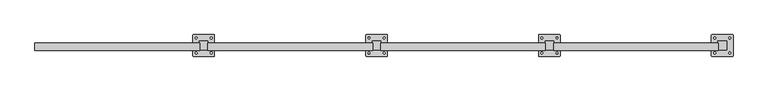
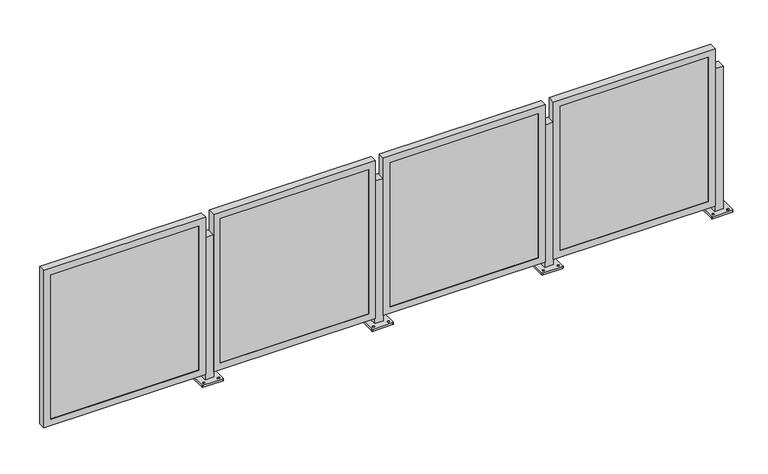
"""IFC4 building model written with IfcOpenShell, lengths in millimetres: railing geometry, Railing - Amico Architectural - Perforated Railing - Pisa."""

from ifc_helpers import new_model, si_unit, frame, origin, place, context, project, spatial, polyline, circle_curve, outline, extrude, faceted_brep, source, transform, mapped, element, save
from ifc_brep_helpers import plane_surface, cylinder_surface, revolved_surface, advanced_brep


def railing_8000f94c(model_context):
    return source(origin(), model_context, "Body", "SolidModel", [
        advanced_brep(
        [(-22940.7094199, -12390.7148907, 914.4), (-22940.7094199, -12441.5148907, 914.4), (-22889.9094199, -12441.5148907, 914.4), (-22889.9094199, -12390.7148907, 914.4), (-22978.8094201, -12476.4398496, 0.0), (-22978.8094201, -12355.7899317, 0.0), (-22975.6343919, -12352.6149035, 0.0), (-22854.9844479, -12352.6149035, 0.0), (-22851.8094198, -12355.7899317, 0.0), (-22851.8094198, -12476.4398496, 0.0), (-22854.9844479, -12479.6148778, 0.0), (-22975.6343919, -12479.6148778, 0.0), (-22959.7594075, -12466.1211453, 0.0), (-22959.7594075, -12455.0086329, 0.0), (-22959.7594184, -12377.2211409, 0.0), (-22959.7594184, -12366.1086593, 0.0), (-22870.8594065, -12466.1211438, 0.0), (-22870.8594065, -12455.0086331, 0.0), (-22870.8594174, -12377.2211394, 0.0), (-22870.8594174, -12366.1086596, 0.0), (-22940.7094199, -12390.7148907, 12.7), (-22940.7094199, -12441.5148907, 12.7), (-22889.9094199, -12441.5148907, 12.7), (-22889.9094199, -12390.7148907, 12.7), (-22978.8094201, -12476.4398496, 12.7), (-22975.6343919, -12479.6148778, 12.7), (-22854.9844479, -12479.6148778, 12.7), (-22851.8094198, -12476.4398496, 12.7), (-22851.8094198, -12355.7899317, 12.7), (-22854.9844479, -12352.6149035, 12.7), (-22975.6343919, -12352.6149035, 12.7), (-22978.8094201, -12355.7899317, 12.7), (-22959.7594075, -12466.1211453, 12.7), (-22959.7594075, -12455.0086329, 12.7), (-22959.7594184, -12377.2211409, 12.7), (-22959.7594184, -12366.1086593, 12.7), (-22870.8594065, -12466.1211438, 12.7), (-22870.8594065, -12455.0086331, 12.7), (-22870.8594174, -12377.2211394, 12.7), (-22870.8594174, -12366.1086596, 12.7)],
        [
            (0, 1),
            (1, 2),
            (2, 3),
            (3, 0),
            (4, 5),
            (5, 6, circle_curve(frame((-22975.6343919, -12355.7899317, 0.0), z_axis=(0.0, 0.0, -1.0), x_axis=(0.0, 1.0, 0.0)), 3.1750282)),
            (6, 7),
            (7, 8, circle_curve(frame((-22854.9844479, -12355.7899317, 0.0), z_axis=(0.0, 0.0, -1.0), x_axis=(0.0, 1.0, 0.0)), 3.1750282)),
            (8, 9),
            (9, 10, circle_curve(frame((-22854.9844479, -12476.4398496, 0.0), z_axis=(0.0, 0.0, -1.0), x_axis=(0.0, 1.0, 0.0)), 3.1750282)),
            (10, 11),
            (11, 4, circle_curve(frame((-22975.6343919, -12476.4398496, 0.0), z_axis=(0.0, 0.0, -1.0), x_axis=(0.0, 1.0, 0.0)), 3.1750282)),
            (12, 13, circle_curve(frame((-22959.7594075, -12460.5648891, 0.0), z_axis=(0.0, 0.0, 1.0), x_axis=(0.0, 1.0, 0.0)), 5.5562562)),
            (13, 12, circle_curve(frame((-22959.7594075, -12460.5648891, 0.0), z_axis=(0.0, 0.0, 1.0), x_axis=(0.0, 1.0, 0.0)), 5.5562562)),
            (14, 15, circle_curve(frame((-22959.7594184, -12371.6649001, 0.0), z_axis=(0.0, 0.0, 1.0), x_axis=(0.0, 1.0, 0.0)), 5.5562408)),
            (15, 14, circle_curve(frame((-22959.7594184, -12371.6649001, 0.0), z_axis=(0.0, 0.0, 1.0), x_axis=(0.0, 1.0, 0.0)), 5.5562408)),
            (16, 17, circle_curve(frame((-22870.8594065, -12460.5648885, 0.0), z_axis=(0.0, 0.0, 1.0), x_axis=(0.0, 1.0, 0.0)), 5.5562553)),
            (17, 16, circle_curve(frame((-22870.8594065, -12460.5648885, 0.0), z_axis=(0.0, 0.0, 1.0), x_axis=(0.0, 1.0, 0.0)), 5.5562553)),
            (18, 19, circle_curve(frame((-22870.8594174, -12371.6648995, 0.0), z_axis=(0.0, 0.0, 1.0), x_axis=(0.0, 1.0, 0.0)), 5.5562399)),
            (19, 18, circle_curve(frame((-22870.8594174, -12371.6648995, 0.0), z_axis=(0.0, 0.0, 1.0), x_axis=(0.0, 1.0, 0.0)), 5.5562399)),
            (0, 20),
            (20, 21),
            (21, 1),
            (21, 22),
            (22, 2),
            (22, 23),
            (23, 3),
            (23, 20),
            (24, 25, circle_curve(frame((-22975.6343919, -12476.4398496, 12.7), z_axis=(0.0, 0.0, 1.0), x_axis=(0.0, 1.0, 0.0)), 3.1750282)),
            (25, 26),
            (26, 27, circle_curve(frame((-22854.9844479, -12476.4398496, 12.7), z_axis=(0.0, 0.0, 1.0), x_axis=(0.0, 1.0, 0.0)), 3.1750282)),
            (27, 28),
            (28, 29, circle_curve(frame((-22854.9844479, -12355.7899317, 12.7), z_axis=(0.0, 0.0, 1.0), x_axis=(0.0, 1.0, 0.0)), 3.1750282)),
            (29, 30),
            (30, 31, circle_curve(frame((-22975.6343919, -12355.7899317, 12.7), z_axis=(0.0, 0.0, 1.0), x_axis=(0.0, 1.0, 0.0)), 3.1750282)),
            (31, 24),
            (32, 33, circle_curve(frame((-22959.7594075, -12460.5648891, 12.7), z_axis=(0.0, 0.0, -1.0), x_axis=(0.0, 1.0, 0.0)), 5.5562562)),
            (33, 32, circle_curve(frame((-22959.7594075, -12460.5648891, 12.7), z_axis=(0.0, 0.0, -1.0), x_axis=(0.0, 1.0, 0.0)), 5.5562562)),
            (34, 35, circle_curve(frame((-22959.7594184, -12371.6649001, 12.7), z_axis=(0.0, 0.0, -1.0), x_axis=(0.0, 1.0, 0.0)), 5.5562408)),
            (35, 34, circle_curve(frame((-22959.7594184, -12371.6649001, 12.7), z_axis=(0.0, 0.0, -1.0), x_axis=(0.0, 1.0, 0.0)), 5.5562408)),
            (36, 37, circle_curve(frame((-22870.8594065, -12460.5648885, 12.7), z_axis=(0.0, 0.0, -1.0), x_axis=(0.0, 1.0, 0.0)), 5.5562553)),
            (37, 36, circle_curve(frame((-22870.8594065, -12460.5648885, 12.7), z_axis=(0.0, 0.0, -1.0), x_axis=(0.0, 1.0, 0.0)), 5.5562553)),
            (38, 39, circle_curve(frame((-22870.8594174, -12371.6648995, 12.7), z_axis=(0.0, 0.0, -1.0), x_axis=(0.0, 1.0, 0.0)), 5.5562399)),
            (39, 38, circle_curve(frame((-22870.8594174, -12371.6648995, 12.7), z_axis=(0.0, 0.0, -1.0), x_axis=(0.0, 1.0, 0.0)), 5.5562399)),
            (24, 4),
            (11, 25),
            (10, 26),
            (9, 27),
            (8, 28),
            (7, 29),
            (6, 30),
            (5, 31),
            (32, 12),
            (13, 33),
            (34, 14),
            (15, 35),
            (36, 16),
            (17, 37),
            (38, 18),
            (19, 39),
        ],
        [
            plane_surface(frame((-22940.7094199, -12441.5148907, 914.4), z_axis=(0.0, 0.0, 1.0), x_axis=(0.0, -1.0, 0.0))),
            plane_surface(frame((-22940.7094199, -12441.5148907, 0.0), z_axis=(0.0, 0.0, -1.0), x_axis=(0.0, 1.0, 0.0))),
            plane_surface(frame((-22940.7094199, -12390.7148907, 914.4), z_axis=(-1.0, 0.0, 0.0), x_axis=(0.0, 0.0, -1.0))),
            plane_surface(frame((-22940.7094199, -12441.5148907, 914.4), z_axis=(0.0, -1.0, 0.0), x_axis=(0.0, 0.0, -1.0))),
            plane_surface(frame((-22889.9094199, -12441.5148907, 914.4), z_axis=(1.0, 0.0, 0.0), x_axis=(0.0, 0.0, -1.0))),
            plane_surface(frame((-22889.9094199, -12390.7148907, 914.4), z_axis=(0.0, 1.0, 0.0), x_axis=(0.0, 0.0, -1.0))),
            plane_surface(frame((-22975.6343919, -12473.2648215, 12.7), z_axis=(0.0, 0.0, 1.0), x_axis=(-1.0, 0.0, 0.0))),
            cylinder_surface(frame((-22975.6343919, -12476.4398496, 0.0), z_axis=(0.0, 0.0, 1.0), x_axis=(0.0, 1.0, 0.0)), 3.1750282),
            plane_surface(frame((-22975.6343919, -12479.6148778, 12.7), z_axis=(1.1945386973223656e-12, -1.0, 0.0), x_axis=(0.0, 0.0, -1.0))),
            cylinder_surface(frame((-22854.9844479, -12476.4398496, 0.0), z_axis=(0.0, 0.0, 1.0), x_axis=(0.0, 1.0, 0.0)), 3.1750282),
            plane_surface(frame((-22851.8094198, -12476.4398496, 12.7), z_axis=(1.0, 0.0, 0.0), x_axis=(0.0, 0.0, -1.0))),
            cylinder_surface(frame((-22854.9844479, -12355.7899317, 0.0), z_axis=(0.0, 0.0, 1.0), x_axis=(0.0, 1.0, 0.0)), 3.1750282),
            plane_surface(frame((-22854.9844479, -12352.6149035, 12.7), z_axis=(-1.1946088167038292e-12, 1.0, 0.0), x_axis=(0.0, 0.0, -1.0))),
            cylinder_surface(frame((-22975.6343919, -12355.7899317, 0.0), z_axis=(0.0, 0.0, 1.0), x_axis=(0.0, 1.0, 0.0)), 3.1750282),
            plane_surface(frame((-22978.8094201, -12355.7899317, 12.7), z_axis=(-1.0, 0.0, 0.0), x_axis=(0.0, 0.0, -1.0))),
            revolved_surface(polyline([(-22959.7594075, -12455.0086329, 0.0), (-22959.7594075, -12455.0086329, 12.7)]), (-22959.7594075, -12460.5648891, 0.0), (0.0, 0.0, -1.0)),
            revolved_surface(polyline([(-22959.7594184, -12366.1086593, 0.0), (-22959.7594184, -12366.1086593, 12.7)]), (-22959.7594184, -12371.6649001, 0.0), (0.0, 0.0, -1.0)),
            revolved_surface(polyline([(-22870.8594065, -12455.0086332, 0.0), (-22870.8594065, -12455.0086332, 12.7)]), (-22870.8594065, -12460.5648885, 0.0), (0.0, 0.0, -1.0)),
            revolved_surface(polyline([(-22870.8594174, -12366.1086596, 0.0), (-22870.8594174, -12366.1086596, 12.7)]), (-22870.8594174, -12371.6648995, 0.0), (0.0, 0.0, -1.0)),
        ],
        [
            (0, [[1, 2, 3, 4]]),
            (1, [[5, 6, 7, 8, 9, 10, 11, 12], [13, 14], [15, 16], [17, 18], [19, 20]]),
            (2, [[-1, 21, 22, 23]]),
            (3, [[-2, -23, 24, 25]]),
            (4, [[-3, -25, 26, 27]]),
            (5, [[-4, -27, 28, -21]]),
            (6, [[29, 30, 31, 32, 33, 34, 35, 36], [-22, -28, -26, -24], [37, 38], [39, 40], [41, 42], [43, 44]]),
            (7, [[-29, 45, -12, 46]]),
            (8, [[-30, -46, -11, 47]]),
            (9, [[-31, -47, -10, 48]]),
            (10, [[-32, -48, -9, 49]]),
            (11, [[-33, -49, -8, 50]]),
            (12, [[-34, -50, -7, 51]]),
            (13, [[-35, -51, -6, 52]]),
            (14, [[-36, -52, -5, -45]]),
            (15, [[-37, 53, -14, 54]]),
            (15, [[-38, -54, -13, -53]]),
            (16, [[-39, 55, -16, 56]]),
            (16, [[-40, -56, -15, -55]]),
            (17, [[-41, 57, -18, 58]]),
            (17, [[-42, -58, -17, -57]]),
            (18, [[-43, 59, -20, 60]]),
            (18, [[-44, -60, -19, -59]]),
        ],
    ),
        faceted_brep([(-23907.1138733, -12444.2580907, 47.625), (-22938.7388733, -12444.2580907, 47.625), (-22938.7388733, -12444.2580907, 1044.575), (-23907.1138733, -12444.2580907, 1044.575), (-23865.8388733, -12444.2580907, 1003.3), (-22980.0138733, -12444.2580907, 1003.3), (-22980.0138733, -12444.2580907, 88.9), (-23865.8388733, -12444.2580907, 88.9), (-23865.8388733, -12441.5148907, 1003.3), (-23865.8388733, -12441.5148907, 88.9), (-23907.1138733, -12400.3847942, 1044.575), (-23907.1138733, -12400.3847942, 47.625), (-23903.9388733, -12400.3847942, 1041.4), (-23903.9388733, -12441.5148907, 1041.4), (-23903.9388733, -12441.5148907, 50.8), (-23903.9388733, -12400.3847942, 50.8), (-22980.0138733, -12441.5148907, 88.9), (-22938.7388733, -12400.3847942, 47.625), (-22941.9138733, -12441.5148907, 50.8), (-22941.9138733, -12400.3847942, 50.8), (-22980.0138733, -12441.5148907, 1003.3), (-22938.7388733, -12400.3847942, 1044.575), (-22941.9138733, -12441.5148907, 1041.4), (-22941.9138733, -12400.3847942, 1041.4)], [[[0, 1, 2, 3], [4, 5, 6, 7]], [[8, 4, 7, 9]], [[3, 10, 11, 0]], [[12, 13, 14, 15]], [[9, 7, 6, 16]], [[0, 11, 17, 1]], [[15, 14, 18, 19]], [[16, 6, 5, 20]], [[1, 17, 21, 2]], [[19, 18, 22, 23]], [[20, 5, 4, 8]], [[10, 21, 17, 11], [15, 19, 23, 12]], [[2, 21, 10, 3]], [[13, 22, 18, 14], [9, 16, 20, 8]], [[23, 22, 13, 12]]]),
        extrude(outline(polyline([(-23903.9388733, -12431.9898907), (-22941.9138733, -12431.9898907), (-22941.9138733, -12441.5148907), (-23903.9388733, -12441.5148907), (-23903.9388733, -12431.9898907)])), frame((0.0, 0.0, 50.8), z_axis=(0.0, 0.0, 1.0), x_axis=(1.0, 0.0, 0.0)), (0.0, 0.0, 1.0), 990.6),
        advanced_brep(
        [(-23956.7094199, -12390.7148907, 914.4), (-23956.7094199, -12441.5148907, 914.4), (-23905.9094199, -12441.5148907, 914.4), (-23905.9094199, -12390.7148907, 914.4), (-23994.8094201, -12476.4398496, 0.0), (-23994.8094201, -12355.7899317, 0.0), (-23991.6343919, -12352.6149035, 0.0), (-23870.9844479, -12352.6149035, 0.0), (-23867.8094198, -12355.7899317, 0.0), (-23867.8094198, -12476.4398496, 0.0), (-23870.9844479, -12479.6148778, 0.0), (-23991.6343919, -12479.6148778, 0.0), (-23975.7594075, -12466.1211453, 0.0), (-23975.7594075, -12455.0086329, 0.0), (-23975.7594184, -12377.2211409, 0.0), (-23975.7594184, -12366.1086593, 0.0), (-23886.8594065, -12466.1211438, 0.0), (-23886.8594065, -12455.0086331, 0.0), (-23886.8594174, -12377.2211394, 0.0), (-23886.8594174, -12366.1086596, 0.0), (-23956.7094199, -12390.7148907, 12.7), (-23956.7094199, -12441.5148907, 12.7), (-23905.9094199, -12441.5148907, 12.7), (-23905.9094199, -12390.7148907, 12.7), (-23994.8094201, -12476.4398496, 12.7), (-23991.6343919, -12479.6148778, 12.7), (-23870.9844479, -12479.6148778, 12.7), (-23867.8094198, -12476.4398496, 12.7), (-23867.8094198, -12355.7899317, 12.7), (-23870.9844479, -12352.6149035, 12.7), (-23991.6343919, -12352.6149035, 12.7), (-23994.8094201, -12355.7899317, 12.7), (-23975.7594075, -12466.1211453, 12.7), (-23975.7594075, -12455.0086329, 12.7), (-23975.7594184, -12377.2211409, 12.7), (-23975.7594184, -12366.1086593, 12.7), (-23886.8594065, -12466.1211438, 12.7), (-23886.8594065, -12455.0086331, 12.7), (-23886.8594174, -12377.2211394, 12.7), (-23886.8594174, -12366.1086596, 12.7)],
        [
            (0, 1),
            (1, 2),
            (2, 3),
            (3, 0),
            (4, 5),
            (5, 6, circle_curve(frame((-23991.6343919, -12355.7899317, 0.0), z_axis=(0.0, 0.0, -1.0), x_axis=(0.0, 1.0, 0.0)), 3.1750282)),
            (6, 7),
            (7, 8, circle_curve(frame((-23870.9844479, -12355.7899317, 0.0), z_axis=(0.0, 0.0, -1.0), x_axis=(0.0, 1.0, 0.0)), 3.1750282)),
            (8, 9),
            (9, 10, circle_curve(frame((-23870.9844479, -12476.4398496, 0.0), z_axis=(0.0, 0.0, -1.0), x_axis=(0.0, 1.0, 0.0)), 3.1750282)),
            (10, 11),
            (11, 4, circle_curve(frame((-23991.6343919, -12476.4398496, 0.0), z_axis=(0.0, 0.0, -1.0), x_axis=(0.0, 1.0, 0.0)), 3.1750282)),
            (12, 13, circle_curve(frame((-23975.7594075, -12460.5648891, 0.0), z_axis=(0.0, 0.0, 1.0), x_axis=(0.0, 1.0, 0.0)), 5.5562562)),
            (13, 12, circle_curve(frame((-23975.7594075, -12460.5648891, 0.0), z_axis=(0.0, 0.0, 1.0), x_axis=(0.0, 1.0, 0.0)), 5.5562562)),
            (14, 15, circle_curve(frame((-23975.7594184, -12371.6649001, 0.0), z_axis=(0.0, 0.0, 1.0), x_axis=(0.0, 1.0, 0.0)), 5.5562408)),
            (15, 14, circle_curve(frame((-23975.7594184, -12371.6649001, 0.0), z_axis=(0.0, 0.0, 1.0), x_axis=(0.0, 1.0, 0.0)), 5.5562408)),
            (16, 17, circle_curve(frame((-23886.8594065, -12460.5648885, 0.0), z_axis=(0.0, 0.0, 1.0), x_axis=(0.0, 1.0, 0.0)), 5.5562553)),
            (17, 16, circle_curve(frame((-23886.8594065, -12460.5648885, 0.0), z_axis=(0.0, 0.0, 1.0), x_axis=(0.0, 1.0, 0.0)), 5.5562553)),
            (18, 19, circle_curve(frame((-23886.8594174, -12371.6648995, 0.0), z_axis=(0.0, 0.0, 1.0), x_axis=(0.0, 1.0, 0.0)), 5.5562399)),
            (19, 18, circle_curve(frame((-23886.8594174, -12371.6648995, 0.0), z_axis=(0.0, 0.0, 1.0), x_axis=(0.0, 1.0, 0.0)), 5.5562399)),
            (0, 20),
            (20, 21),
            (21, 1),
            (21, 22),
            (22, 2),
            (22, 23),
            (23, 3),
            (23, 20),
            (24, 25, circle_curve(frame((-23991.6343919, -12476.4398496, 12.7), z_axis=(0.0, 0.0, 1.0), x_axis=(0.0, 1.0, 0.0)), 3.1750282)),
            (25, 26),
            (26, 27, circle_curve(frame((-23870.9844479, -12476.4398496, 12.7), z_axis=(0.0, 0.0, 1.0), x_axis=(0.0, 1.0, 0.0)), 3.1750282)),
            (27, 28),
            (28, 29, circle_curve(frame((-23870.9844479, -12355.7899317, 12.7), z_axis=(0.0, 0.0, 1.0), x_axis=(0.0, 1.0, 0.0)), 3.1750282)),
            (29, 30),
            (30, 31, circle_curve(frame((-23991.6343919, -12355.7899317, 12.7), z_axis=(0.0, 0.0, 1.0), x_axis=(0.0, 1.0, 0.0)), 3.1750282)),
            (31, 24),
            (32, 33, circle_curve(frame((-23975.7594075, -12460.5648891, 12.7), z_axis=(0.0, 0.0, -1.0), x_axis=(0.0, 1.0, 0.0)), 5.5562562)),
            (33, 32, circle_curve(frame((-23975.7594075, -12460.5648891, 12.7), z_axis=(0.0, 0.0, -1.0), x_axis=(0.0, 1.0, 0.0)), 5.5562562)),
            (34, 35, circle_curve(frame((-23975.7594184, -12371.6649001, 12.7), z_axis=(0.0, 0.0, -1.0), x_axis=(0.0, 1.0, 0.0)), 5.5562408)),
            (35, 34, circle_curve(frame((-23975.7594184, -12371.6649001, 12.7), z_axis=(0.0, 0.0, -1.0), x_axis=(0.0, 1.0, 0.0)), 5.5562408)),
            (36, 37, circle_curve(frame((-23886.8594065, -12460.5648885, 12.7), z_axis=(0.0, 0.0, -1.0), x_axis=(0.0, 1.0, 0.0)), 5.5562553)),
            (37, 36, circle_curve(frame((-23886.8594065, -12460.5648885, 12.7), z_axis=(0.0, 0.0, -1.0), x_axis=(0.0, 1.0, 0.0)), 5.5562553)),
            (38, 39, circle_curve(frame((-23886.8594174, -12371.6648995, 12.7), z_axis=(0.0, 0.0, -1.0), x_axis=(0.0, 1.0, 0.0)), 5.5562399)),
            (39, 38, circle_curve(frame((-23886.8594174, -12371.6648995, 12.7), z_axis=(0.0, 0.0, -1.0), x_axis=(0.0, 1.0, 0.0)), 5.5562399)),
            (24, 4),
            (11, 25),
            (10, 26),
            (9, 27),
            (8, 28),
            (7, 29),
            (6, 30),
            (5, 31),
            (32, 12),
            (13, 33),
            (34, 14),
            (15, 35),
            (36, 16),
            (17, 37),
            (38, 18),
            (19, 39),
        ],
        [
            plane_surface(frame((-23956.7094199, -12441.5148907, 914.4), z_axis=(0.0, 0.0, 1.0), x_axis=(0.0, -1.0, 0.0))),
            plane_surface(frame((-23956.7094199, -12441.5148907, 0.0), z_axis=(0.0, 0.0, -1.0), x_axis=(0.0, 1.0, 0.0))),
            plane_surface(frame((-23956.7094199, -12390.7148907, 914.4), z_axis=(-1.0, 0.0, 0.0), x_axis=(0.0, 0.0, -1.0))),
            plane_surface(frame((-23956.7094199, -12441.5148907, 914.4), z_axis=(0.0, -1.0, 0.0), x_axis=(0.0, 0.0, -1.0))),
            plane_surface(frame((-23905.9094199, -12441.5148907, 914.4), z_axis=(1.0, 0.0, 0.0), x_axis=(0.0, 0.0, -1.0))),
            plane_surface(frame((-23905.9094199, -12390.7148907, 914.4), z_axis=(0.0, 1.0, 0.0), x_axis=(0.0, 0.0, -1.0))),
            plane_surface(frame((-23991.6343919, -12473.2648215, 12.7), z_axis=(0.0, 0.0, 1.0), x_axis=(-1.0, 0.0, 0.0))),
            cylinder_surface(frame((-23991.6343919, -12476.4398496, 0.0), z_axis=(0.0, 0.0, 1.0), x_axis=(0.0, 1.0, 0.0)), 3.1750282),
            plane_surface(frame((-23991.6343919, -12479.6148778, 12.7), z_axis=(1.1945386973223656e-12, -1.0, 0.0), x_axis=(0.0, 0.0, -1.0))),
            cylinder_surface(frame((-23870.9844479, -12476.4398496, 0.0), z_axis=(0.0, 0.0, 1.0), x_axis=(0.0, 1.0, 0.0)), 3.1750282),
            plane_surface(frame((-23867.8094198, -12476.4398496, 12.7), z_axis=(1.0, 0.0, 0.0), x_axis=(0.0, 0.0, -1.0))),
            cylinder_surface(frame((-23870.9844479, -12355.7899317, 0.0), z_axis=(0.0, 0.0, 1.0), x_axis=(0.0, 1.0, 0.0)), 3.1750282),
            plane_surface(frame((-23870.9844479, -12352.6149035, 12.7), z_axis=(-1.1946088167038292e-12, 1.0, 0.0), x_axis=(0.0, 0.0, -1.0))),
            cylinder_surface(frame((-23991.6343919, -12355.7899317, 0.0), z_axis=(0.0, 0.0, 1.0), x_axis=(0.0, 1.0, 0.0)), 3.1750282),
            plane_surface(frame((-23994.8094201, -12355.7899317, 12.7), z_axis=(-1.0, 0.0, 0.0), x_axis=(0.0, 0.0, -1.0))),
            revolved_surface(polyline([(-23975.7594075, -12455.0086329, 0.0), (-23975.7594075, -12455.0086329, 12.7)]), (-23975.7594075, -12460.5648891, 0.0), (0.0, 0.0, -1.0)),
            revolved_surface(polyline([(-23975.7594184, -12366.1086593, 0.0), (-23975.7594184, -12366.1086593, 12.7)]), (-23975.7594184, -12371.6649001, 0.0), (0.0, 0.0, -1.0)),
            revolved_surface(polyline([(-23886.8594065, -12455.0086332, 0.0), (-23886.8594065, -12455.0086332, 12.7)]), (-23886.8594065, -12460.5648885, 0.0), (0.0, 0.0, -1.0)),
            revolved_surface(polyline([(-23886.8594174, -12366.1086596, 0.0), (-23886.8594174, -12366.1086596, 12.7)]), (-23886.8594174, -12371.6648995, 0.0), (0.0, 0.0, -1.0)),
        ],
        [
            (0, [[1, 2, 3, 4]]),
            (1, [[5, 6, 7, 8, 9, 10, 11, 12], [13, 14], [15, 16], [17, 18], [19, 20]]),
            (2, [[-1, 21, 22, 23]]),
            (3, [[-2, -23, 24, 25]]),
            (4, [[-3, -25, 26, 27]]),
            (5, [[-4, -27, 28, -21]]),
            (6, [[29, 30, 31, 32, 33, 34, 35, 36], [-22, -28, -26, -24], [37, 38], [39, 40], [41, 42], [43, 44]]),
            (7, [[-29, 45, -12, 46]]),
            (8, [[-30, -46, -11, 47]]),
            (9, [[-31, -47, -10, 48]]),
            (10, [[-32, -48, -9, 49]]),
            (11, [[-33, -49, -8, 50]]),
            (12, [[-34, -50, -7, 51]]),
            (13, [[-35, -51, -6, 52]]),
            (14, [[-36, -52, -5, -45]]),
            (15, [[-37, 53, -14, 54]]),
            (15, [[-38, -54, -13, -53]]),
            (16, [[-39, 55, -16, 56]]),
            (16, [[-40, -56, -15, -55]]),
            (17, [[-41, 57, -18, 58]]),
            (17, [[-42, -58, -17, -57]]),
            (18, [[-43, 59, -20, 60]]),
            (18, [[-44, -60, -19, -59]]),
        ],
    ),
        faceted_brep([(-24923.1138733, -12444.2580907, 47.625), (-23954.7388733, -12444.2580907, 47.625), (-23954.7388733, -12444.2580907, 1044.575), (-24923.1138733, -12444.2580907, 1044.575), (-24881.8388733, -12444.2580907, 1003.3), (-23996.0138733, -12444.2580907, 1003.3), (-23996.0138733, -12444.2580907, 88.9), (-24881.8388733, -12444.2580907, 88.9), (-24881.8388733, -12441.5148907, 1003.3), (-24881.8388733, -12441.5148907, 88.9), (-24923.1138733, -12400.3847942, 1044.575), (-24923.1138733, -12400.3847942, 47.625), (-24919.9388733, -12400.3847942, 1041.4), (-24919.9388733, -12441.5148907, 1041.4), (-24919.9388733, -12441.5148907, 50.8), (-24919.9388733, -12400.3847942, 50.8), (-23996.0138733, -12441.5148907, 88.9), (-23954.7388733, -12400.3847942, 47.625), (-23957.9138733, -12441.5148907, 50.8), (-23957.9138733, -12400.3847942, 50.8), (-23996.0138733, -12441.5148907, 1003.3), (-23954.7388733, -12400.3847942, 1044.575), (-23957.9138733, -12441.5148907, 1041.4), (-23957.9138733, -12400.3847942, 1041.4)], [[[0, 1, 2, 3], [4, 5, 6, 7]], [[8, 4, 7, 9]], [[3, 10, 11, 0]], [[12, 13, 14, 15]], [[9, 7, 6, 16]], [[0, 11, 17, 1]], [[15, 14, 18, 19]], [[16, 6, 5, 20]], [[1, 17, 21, 2]], [[19, 18, 22, 23]], [[20, 5, 4, 8]], [[10, 21, 17, 11], [15, 19, 23, 12]], [[2, 21, 10, 3]], [[13, 22, 18, 14], [9, 16, 20, 8]], [[23, 22, 13, 12]]]),
        extrude(outline(polyline([(-24919.9388733, -12431.9898907), (-23957.9138733, -12431.9898907), (-23957.9138733, -12441.5148907), (-24919.9388733, -12441.5148907), (-24919.9388733, -12431.9898907)])), frame((0.0, 0.0, 50.8), z_axis=(0.0, 0.0, 1.0), x_axis=(1.0, 0.0, 0.0)), (0.0, 0.0, 1.0), 990.6),
        advanced_brep(
        [(-24972.7094199, -12390.7148907, 914.4), (-24972.7094199, -12441.5148907, 914.4), (-24921.9094199, -12441.5148907, 914.4), (-24921.9094199, -12390.7148907, 914.4), (-25010.8094201, -12476.4398496, 0.0), (-25010.8094201, -12355.7899317, 0.0), (-25007.6343919, -12352.6149035, 0.0), (-24886.9844479, -12352.6149035, 0.0), (-24883.8094198, -12355.7899317, 0.0), (-24883.8094198, -12476.4398496, 0.0), (-24886.9844479, -12479.6148778, 0.0), (-25007.6343919, -12479.6148778, 0.0), (-24991.7594075, -12466.1211453, 0.0), (-24991.7594075, -12455.0086329, 0.0), (-24991.7594184, -12377.2211409, 0.0), (-24991.7594184, -12366.1086593, 0.0), (-24902.8594065, -12466.1211438, 0.0), (-24902.8594065, -12455.0086331, 0.0), (-24902.8594174, -12377.2211394, 0.0), (-24902.8594174, -12366.1086596, 0.0), (-24972.7094199, -12390.7148907, 12.7), (-24972.7094199, -12441.5148907, 12.7), (-24921.9094199, -12441.5148907, 12.7), (-24921.9094199, -12390.7148907, 12.7), (-25010.8094201, -12476.4398496, 12.7), (-25007.6343919, -12479.6148778, 12.7), (-24886.9844479, -12479.6148778, 12.7), (-24883.8094198, -12476.4398496, 12.7), (-24883.8094198, -12355.7899317, 12.7), (-24886.9844479, -12352.6149035, 12.7), (-25007.6343919, -12352.6149035, 12.7), (-25010.8094201, -12355.7899317, 12.7), (-24991.7594075, -12466.1211453, 12.7), (-24991.7594075, -12455.0086329, 12.7), (-24991.7594184, -12377.2211409, 12.7), (-24991.7594184, -12366.1086593, 12.7), (-24902.8594065, -12466.1211438, 12.7), (-24902.8594065, -12455.0086331, 12.7), (-24902.8594174, -12377.2211394, 12.7), (-24902.8594174, -12366.1086596, 12.7)],
        [
            (0, 1),
            (1, 2),
            (2, 3),
            (3, 0),
            (4, 5),
            (5, 6, circle_curve(frame((-25007.6343919, -12355.7899317, 0.0), z_axis=(0.0, 0.0, -1.0), x_axis=(0.0, 1.0, 0.0)), 3.1750282)),
            (6, 7),
            (7, 8, circle_curve(frame((-24886.9844479, -12355.7899317, 0.0), z_axis=(0.0, 0.0, -1.0), x_axis=(0.0, 1.0, 0.0)), 3.1750282)),
            (8, 9),
            (9, 10, circle_curve(frame((-24886.9844479, -12476.4398496, 0.0), z_axis=(0.0, 0.0, -1.0), x_axis=(0.0, 1.0, 0.0)), 3.1750282)),
            (10, 11),
            (11, 4, circle_curve(frame((-25007.6343919, -12476.4398496, 0.0), z_axis=(0.0, 0.0, -1.0), x_axis=(0.0, 1.0, 0.0)), 3.1750282)),
            (12, 13, circle_curve(frame((-24991.7594075, -12460.5648891, 0.0), z_axis=(0.0, 0.0, 1.0), x_axis=(0.0, 1.0, 0.0)), 5.5562562)),
            (13, 12, circle_curve(frame((-24991.7594075, -12460.5648891, 0.0), z_axis=(0.0, 0.0, 1.0), x_axis=(0.0, 1.0, 0.0)), 5.5562562)),
            (14, 15, circle_curve(frame((-24991.7594184, -12371.6649001, 0.0), z_axis=(0.0, 0.0, 1.0), x_axis=(0.0, 1.0, 0.0)), 5.5562408)),
            (15, 14, circle_curve(frame((-24991.7594184, -12371.6649001, 0.0), z_axis=(0.0, 0.0, 1.0), x_axis=(0.0, 1.0, 0.0)), 5.5562408)),
            (16, 17, circle_curve(frame((-24902.8594065, -12460.5648885, 0.0), z_axis=(0.0, 0.0, 1.0), x_axis=(0.0, 1.0, 0.0)), 5.5562553)),
            (17, 16, circle_curve(frame((-24902.8594065, -12460.5648885, 0.0), z_axis=(0.0, 0.0, 1.0), x_axis=(0.0, 1.0, 0.0)), 5.5562553)),
            (18, 19, circle_curve(frame((-24902.8594174, -12371.6648995, 0.0), z_axis=(0.0, 0.0, 1.0), x_axis=(0.0, 1.0, 0.0)), 5.5562399)),
            (19, 18, circle_curve(frame((-24902.8594174, -12371.6648995, 0.0), z_axis=(0.0, 0.0, 1.0), x_axis=(0.0, 1.0, 0.0)), 5.5562399)),
            (0, 20),
            (20, 21),
            (21, 1),
            (21, 22),
            (22, 2),
            (22, 23),
            (23, 3),
            (23, 20),
            (24, 25, circle_curve(frame((-25007.6343919, -12476.4398496, 12.7), z_axis=(0.0, 0.0, 1.0), x_axis=(0.0, 1.0, 0.0)), 3.1750282)),
            (25, 26),
            (26, 27, circle_curve(frame((-24886.9844479, -12476.4398496, 12.7), z_axis=(0.0, 0.0, 1.0), x_axis=(0.0, 1.0, 0.0)), 3.1750282)),
            (27, 28),
            (28, 29, circle_curve(frame((-24886.9844479, -12355.7899317, 12.7), z_axis=(0.0, 0.0, 1.0), x_axis=(0.0, 1.0, 0.0)), 3.1750282)),
            (29, 30),
            (30, 31, circle_curve(frame((-25007.6343919, -12355.7899317, 12.7), z_axis=(0.0, 0.0, 1.0), x_axis=(0.0, 1.0, 0.0)), 3.1750282)),
            (31, 24),
            (32, 33, circle_curve(frame((-24991.7594075, -12460.5648891, 12.7), z_axis=(0.0, 0.0, -1.0), x_axis=(0.0, 1.0, 0.0)), 5.5562562)),
            (33, 32, circle_curve(frame((-24991.7594075, -12460.5648891, 12.7), z_axis=(0.0, 0.0, -1.0), x_axis=(0.0, 1.0, 0.0)), 5.5562562)),
            (34, 35, circle_curve(frame((-24991.7594184, -12371.6649001, 12.7), z_axis=(0.0, 0.0, -1.0), x_axis=(0.0, 1.0, 0.0)), 5.5562408)),
            (35, 34, circle_curve(frame((-24991.7594184, -12371.6649001, 12.7), z_axis=(0.0, 0.0, -1.0), x_axis=(0.0, 1.0, 0.0)), 5.5562408)),
            (36, 37, circle_curve(frame((-24902.8594065, -12460.5648885, 12.7), z_axis=(0.0, 0.0, -1.0), x_axis=(0.0, 1.0, 0.0)), 5.5562553)),
            (37, 36, circle_curve(frame((-24902.8594065, -12460.5648885, 12.7), z_axis=(0.0, 0.0, -1.0), x_axis=(0.0, 1.0, 0.0)), 5.5562553)),
            (38, 39, circle_curve(frame((-24902.8594174, -12371.6648995, 12.7), z_axis=(0.0, 0.0, -1.0), x_axis=(0.0, 1.0, 0.0)), 5.5562399)),
            (39, 38, circle_curve(frame((-24902.8594174, -12371.6648995, 12.7), z_axis=(0.0, 0.0, -1.0), x_axis=(0.0, 1.0, 0.0)), 5.5562399)),
            (24, 4),
            (11, 25),
            (10, 26),
            (9, 27),
            (8, 28),
            (7, 29),
            (6, 30),
            (5, 31),
            (32, 12),
            (13, 33),
            (34, 14),
            (15, 35),
            (36, 16),
            (17, 37),
            (38, 18),
            (19, 39),
        ],
        [
            plane_surface(frame((-24972.7094199, -12441.5148907, 914.4), z_axis=(0.0, 0.0, 1.0), x_axis=(0.0, -1.0, 0.0))),
            plane_surface(frame((-24972.7094199, -12441.5148907, 0.0), z_axis=(0.0, 0.0, -1.0), x_axis=(0.0, 1.0, 0.0))),
            plane_surface(frame((-24972.7094199, -12390.7148907, 914.4), z_axis=(-1.0, 0.0, 0.0), x_axis=(0.0, 0.0, -1.0))),
            plane_surface(frame((-24972.7094199, -12441.5148907, 914.4), z_axis=(0.0, -1.0, 0.0), x_axis=(0.0, 0.0, -1.0))),
            plane_surface(frame((-24921.9094199, -12441.5148907, 914.4), z_axis=(1.0, 0.0, 0.0), x_axis=(0.0, 0.0, -1.0))),
            plane_surface(frame((-24921.9094199, -12390.7148907, 914.4), z_axis=(0.0, 1.0, 0.0), x_axis=(0.0, 0.0, -1.0))),
            plane_surface(frame((-25007.6343919, -12473.2648215, 12.7), z_axis=(0.0, 0.0, 1.0), x_axis=(-1.0, 0.0, 0.0))),
            cylinder_surface(frame((-25007.6343919, -12476.4398496, 0.0), z_axis=(0.0, 0.0, 1.0), x_axis=(0.0, 1.0, 0.0)), 3.1750282),
            plane_surface(frame((-25007.6343919, -12479.6148778, 12.7), z_axis=(1.1945386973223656e-12, -1.0, 0.0), x_axis=(0.0, 0.0, -1.0))),
            cylinder_surface(frame((-24886.9844479, -12476.4398496, 0.0), z_axis=(0.0, 0.0, 1.0), x_axis=(0.0, 1.0, 0.0)), 3.1750282),
            plane_surface(frame((-24883.8094198, -12476.4398496, 12.7), z_axis=(1.0, 0.0, 0.0), x_axis=(0.0, 0.0, -1.0))),
            cylinder_surface(frame((-24886.9844479, -12355.7899317, 0.0), z_axis=(0.0, 0.0, 1.0), x_axis=(0.0, 1.0, 0.0)), 3.1750282),
            plane_surface(frame((-24886.9844479, -12352.6149035, 12.7), z_axis=(-1.1946088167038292e-12, 1.0, 0.0), x_axis=(0.0, 0.0, -1.0))),
            cylinder_surface(frame((-25007.6343919, -12355.7899317, 0.0), z_axis=(0.0, 0.0, 1.0), x_axis=(0.0, 1.0, 0.0)), 3.1750282),
            plane_surface(frame((-25010.8094201, -12355.7899317, 12.7), z_axis=(-1.0, 0.0, 0.0), x_axis=(0.0, 0.0, -1.0))),
            revolved_surface(polyline([(-24991.7594075, -12455.0086329, 0.0), (-24991.7594075, -12455.0086329, 12.7)]), (-24991.7594075, -12460.5648891, 0.0), (0.0, 0.0, -1.0)),
            revolved_surface(polyline([(-24991.7594184, -12366.1086593, 0.0), (-24991.7594184, -12366.1086593, 12.7)]), (-24991.7594184, -12371.6649001, 0.0), (0.0, 0.0, -1.0)),
            revolved_surface(polyline([(-24902.8594065, -12455.0086332, 0.0), (-24902.8594065, -12455.0086332, 12.7)]), (-24902.8594065, -12460.5648885, 0.0), (0.0, 0.0, -1.0)),
            revolved_surface(polyline([(-24902.8594174, -12366.1086596, 0.0), (-24902.8594174, -12366.1086596, 12.7)]), (-24902.8594174, -12371.6648995, 0.0), (0.0, 0.0, -1.0)),
        ],
        [
            (0, [[1, 2, 3, 4]]),
            (1, [[5, 6, 7, 8, 9, 10, 11, 12], [13, 14], [15, 16], [17, 18], [19, 20]]),
            (2, [[-1, 21, 22, 23]]),
            (3, [[-2, -23, 24, 25]]),
            (4, [[-3, -25, 26, 27]]),
            (5, [[-4, -27, 28, -21]]),
            (6, [[29, 30, 31, 32, 33, 34, 35, 36], [-22, -28, -26, -24], [37, 38], [39, 40], [41, 42], [43, 44]]),
            (7, [[-29, 45, -12, 46]]),
            (8, [[-30, -46, -11, 47]]),
            (9, [[-31, -47, -10, 48]]),
            (10, [[-32, -48, -9, 49]]),
            (11, [[-33, -49, -8, 50]]),
            (12, [[-34, -50, -7, 51]]),
            (13, [[-35, -51, -6, 52]]),
            (14, [[-36, -52, -5, -45]]),
            (15, [[-37, 53, -14, 54]]),
            (15, [[-38, -54, -13, -53]]),
            (16, [[-39, 55, -16, 56]]),
            (16, [[-40, -56, -15, -55]]),
            (17, [[-41, 57, -18, 58]]),
            (17, [[-42, -58, -17, -57]]),
            (18, [[-43, 59, -20, 60]]),
            (18, [[-44, -60, -19, -59]]),
        ],
    ),
        faceted_brep([(-25939.1138733, -12444.2580907, 47.625), (-24970.7388733, -12444.2580907, 47.625), (-24970.7388733, -12444.2580907, 1044.575), (-25939.1138733, -12444.2580907, 1044.575), (-25897.8388733, -12444.2580907, 1003.3), (-25012.0138733, -12444.2580907, 1003.3), (-25012.0138733, -12444.2580907, 88.9), (-25897.8388733, -12444.2580907, 88.9), (-25897.8388733, -12441.5148907, 1003.3), (-25897.8388733, -12441.5148907, 88.9), (-25939.1138733, -12400.3847942, 1044.575), (-25939.1138733, -12400.3847942, 47.625), (-25935.9388733, -12400.3847942, 1041.4), (-25935.9388733, -12441.5148907, 1041.4), (-25935.9388733, -12441.5148907, 50.8), (-25935.9388733, -12400.3847942, 50.8), (-25012.0138733, -12441.5148907, 88.9), (-24970.7388733, -12400.3847942, 47.625), (-24973.9138733, -12441.5148907, 50.8), (-24973.9138733, -12400.3847942, 50.8), (-25012.0138733, -12441.5148907, 1003.3), (-24970.7388733, -12400.3847942, 1044.575), (-24973.9138733, -12441.5148907, 1041.4), (-24973.9138733, -12400.3847942, 1041.4)], [[[0, 1, 2, 3], [4, 5, 6, 7]], [[8, 4, 7, 9]], [[3, 10, 11, 0]], [[12, 13, 14, 15]], [[9, 7, 6, 16]], [[0, 11, 17, 1]], [[15, 14, 18, 19]], [[16, 6, 5, 20]], [[1, 17, 21, 2]], [[19, 18, 22, 23]], [[20, 5, 4, 8]], [[10, 21, 17, 11], [15, 19, 23, 12]], [[2, 21, 10, 3]], [[13, 22, 18, 14], [9, 16, 20, 8]], [[23, 22, 13, 12]]]),
        extrude(outline(polyline([(-25935.9388733, -12431.9898907), (-24973.9138733, -12431.9898907), (-24973.9138733, -12441.5148907), (-25935.9388733, -12441.5148907), (-25935.9388733, -12431.9898907)])), frame((0.0, 0.0, 50.8), z_axis=(0.0, 0.0, 1.0), x_axis=(1.0, 0.0, 0.0)), (0.0, 0.0, 1.0), 990.6),
        advanced_brep(
        [(-25988.7094199, -12390.7148907, 914.4), (-25988.7094199, -12441.5148907, 914.4), (-25937.9094199, -12441.5148907, 914.4), (-25937.9094199, -12390.7148907, 914.4), (-26026.8094201, -12476.4398496, 0.0), (-26026.8094201, -12355.7899317, 0.0), (-26023.6343919, -12352.6149035, 0.0), (-25902.9844479, -12352.6149035, 0.0), (-25899.8094198, -12355.7899317, 0.0), (-25899.8094198, -12476.4398496, 0.0), (-25902.9844479, -12479.6148778, 0.0), (-26023.6343919, -12479.6148778, 0.0), (-26007.7594075, -12466.1211453, 0.0), (-26007.7594075, -12455.0086329, 0.0), (-26007.7594184, -12377.2211409, 0.0), (-26007.7594184, -12366.1086593, 0.0), (-25918.8594065, -12466.1211438, 0.0), (-25918.8594065, -12455.0086331, 0.0), (-25918.8594174, -12377.2211394, 0.0), (-25918.8594174, -12366.1086596, 0.0), (-25988.7094199, -12390.7148907, 12.7), (-25988.7094199, -12441.5148907, 12.7), (-25937.9094199, -12441.5148907, 12.7), (-25937.9094199, -12390.7148907, 12.7), (-26026.8094201, -12476.4398496, 12.7), (-26023.6343919, -12479.6148778, 12.7), (-25902.9844479, -12479.6148778, 12.7), (-25899.8094198, -12476.4398496, 12.7), (-25899.8094198, -12355.7899317, 12.7), (-25902.9844479, -12352.6149035, 12.7), (-26023.6343919, -12352.6149035, 12.7), (-26026.8094201, -12355.7899317, 12.7), (-26007.7594075, -12466.1211453, 12.7), (-26007.7594075, -12455.0086329, 12.7), (-26007.7594184, -12377.2211409, 12.7), (-26007.7594184, -12366.1086593, 12.7), (-25918.8594065, -12466.1211438, 12.7), (-25918.8594065, -12455.0086331, 12.7), (-25918.8594174, -12377.2211394, 12.7), (-25918.8594174, -12366.1086596, 12.7)],
        [
            (0, 1),
            (1, 2),
            (2, 3),
            (3, 0),
            (4, 5),
            (5, 6, circle_curve(frame((-26023.6343919, -12355.7899317, 0.0), z_axis=(0.0, 0.0, -1.0), x_axis=(0.0, 1.0, 0.0)), 3.1750282)),
            (6, 7),
            (7, 8, circle_curve(frame((-25902.9844479, -12355.7899317, 0.0), z_axis=(0.0, 0.0, -1.0), x_axis=(0.0, 1.0, 0.0)), 3.1750282)),
            (8, 9),
            (9, 10, circle_curve(frame((-25902.9844479, -12476.4398496, 0.0), z_axis=(0.0, 0.0, -1.0), x_axis=(0.0, 1.0, 0.0)), 3.1750282)),
            (10, 11),
            (11, 4, circle_curve(frame((-26023.6343919, -12476.4398496, 0.0), z_axis=(0.0, 0.0, -1.0), x_axis=(0.0, 1.0, 0.0)), 3.1750282)),
            (12, 13, circle_curve(frame((-26007.7594075, -12460.5648891, 0.0), z_axis=(0.0, 0.0, 1.0), x_axis=(0.0, 1.0, 0.0)), 5.5562562)),
            (13, 12, circle_curve(frame((-26007.7594075, -12460.5648891, 0.0), z_axis=(0.0, 0.0, 1.0), x_axis=(0.0, 1.0, 0.0)), 5.5562562)),
            (14, 15, circle_curve(frame((-26007.7594184, -12371.6649001, 0.0), z_axis=(0.0, 0.0, 1.0), x_axis=(0.0, 1.0, 0.0)), 5.5562408)),
            (15, 14, circle_curve(frame((-26007.7594184, -12371.6649001, 0.0), z_axis=(0.0, 0.0, 1.0), x_axis=(0.0, 1.0, 0.0)), 5.5562408)),
            (16, 17, circle_curve(frame((-25918.8594065, -12460.5648885, 0.0), z_axis=(0.0, 0.0, 1.0), x_axis=(0.0, 1.0, 0.0)), 5.5562553)),
            (17, 16, circle_curve(frame((-25918.8594065, -12460.5648885, 0.0), z_axis=(0.0, 0.0, 1.0), x_axis=(0.0, 1.0, 0.0)), 5.5562553)),
            (18, 19, circle_curve(frame((-25918.8594174, -12371.6648995, 0.0), z_axis=(0.0, 0.0, 1.0), x_axis=(0.0, 1.0, 0.0)), 5.5562399)),
            (19, 18, circle_curve(frame((-25918.8594174, -12371.6648995, 0.0), z_axis=(0.0, 0.0, 1.0), x_axis=(0.0, 1.0, 0.0)), 5.5562399)),
            (0, 20),
            (20, 21),
            (21, 1),
            (21, 22),
            (22, 2),
            (22, 23),
            (23, 3),
            (23, 20),
            (24, 25, circle_curve(frame((-26023.6343919, -12476.4398496, 12.7), z_axis=(0.0, 0.0, 1.0), x_axis=(0.0, 1.0, 0.0)), 3.1750282)),
            (25, 26),
            (26, 27, circle_curve(frame((-25902.9844479, -12476.4398496, 12.7), z_axis=(0.0, 0.0, 1.0), x_axis=(0.0, 1.0, 0.0)), 3.1750282)),
            (27, 28),
            (28, 29, circle_curve(frame((-25902.9844479, -12355.7899317, 12.7), z_axis=(0.0, 0.0, 1.0), x_axis=(0.0, 1.0, 0.0)), 3.1750282)),
            (29, 30),
            (30, 31, circle_curve(frame((-26023.6343919, -12355.7899317, 12.7), z_axis=(0.0, 0.0, 1.0), x_axis=(0.0, 1.0, 0.0)), 3.1750282)),
            (31, 24),
            (32, 33, circle_curve(frame((-26007.7594075, -12460.5648891, 12.7), z_axis=(0.0, 0.0, -1.0), x_axis=(0.0, 1.0, 0.0)), 5.5562562)),
            (33, 32, circle_curve(frame((-26007.7594075, -12460.5648891, 12.7), z_axis=(0.0, 0.0, -1.0), x_axis=(0.0, 1.0, 0.0)), 5.5562562)),
            (34, 35, circle_curve(frame((-26007.7594184, -12371.6649001, 12.7), z_axis=(0.0, 0.0, -1.0), x_axis=(0.0, 1.0, 0.0)), 5.5562408)),
            (35, 34, circle_curve(frame((-26007.7594184, -12371.6649001, 12.7), z_axis=(0.0, 0.0, -1.0), x_axis=(0.0, 1.0, 0.0)), 5.5562408)),
            (36, 37, circle_curve(frame((-25918.8594065, -12460.5648885, 12.7), z_axis=(0.0, 0.0, -1.0), x_axis=(0.0, 1.0, 0.0)), 5.5562553)),
            (37, 36, circle_curve(frame((-25918.8594065, -12460.5648885, 12.7), z_axis=(0.0, 0.0, -1.0), x_axis=(0.0, 1.0, 0.0)), 5.5562553)),
            (38, 39, circle_curve(frame((-25918.8594174, -12371.6648995, 12.7), z_axis=(0.0, 0.0, -1.0), x_axis=(0.0, 1.0, 0.0)), 5.5562399)),
            (39, 38, circle_curve(frame((-25918.8594174, -12371.6648995, 12.7), z_axis=(0.0, 0.0, -1.0), x_axis=(0.0, 1.0, 0.0)), 5.5562399)),
            (24, 4),
            (11, 25),
            (10, 26),
            (9, 27),
            (8, 28),
            (7, 29),
            (6, 30),
            (5, 31),
            (32, 12),
            (13, 33),
            (34, 14),
            (15, 35),
            (36, 16),
            (17, 37),
            (38, 18),
            (19, 39),
        ],
        [
            plane_surface(frame((-25988.7094199, -12441.5148907, 914.4), z_axis=(0.0, 0.0, 1.0), x_axis=(0.0, -1.0, 0.0))),
            plane_surface(frame((-25988.7094199, -12441.5148907, 0.0), z_axis=(0.0, 0.0, -1.0), x_axis=(0.0, 1.0, 0.0))),
            plane_surface(frame((-25988.7094199, -12390.7148907, 914.4), z_axis=(-1.0, 0.0, 0.0), x_axis=(0.0, 0.0, -1.0))),
            plane_surface(frame((-25988.7094199, -12441.5148907, 914.4), z_axis=(0.0, -1.0, 0.0), x_axis=(0.0, 0.0, -1.0))),
            plane_surface(frame((-25937.9094199, -12441.5148907, 914.4), z_axis=(1.0, 0.0, 0.0), x_axis=(0.0, 0.0, -1.0))),
            plane_surface(frame((-25937.9094199, -12390.7148907, 914.4), z_axis=(0.0, 1.0, 0.0), x_axis=(0.0, 0.0, -1.0))),
            plane_surface(frame((-26023.6343919, -12473.2648215, 12.7), z_axis=(0.0, 0.0, 1.0), x_axis=(-1.0, 0.0, 0.0))),
            cylinder_surface(frame((-26023.6343919, -12476.4398496, 0.0), z_axis=(0.0, 0.0, 1.0), x_axis=(0.0, 1.0, 0.0)), 3.1750282),
            plane_surface(frame((-26023.6343919, -12479.6148778, 12.7), z_axis=(1.1945386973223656e-12, -1.0, 0.0), x_axis=(0.0, 0.0, -1.0))),
            cylinder_surface(frame((-25902.9844479, -12476.4398496, 0.0), z_axis=(0.0, 0.0, 1.0), x_axis=(0.0, 1.0, 0.0)), 3.1750282),
            plane_surface(frame((-25899.8094198, -12476.4398496, 12.7), z_axis=(1.0, 0.0, 0.0), x_axis=(0.0, 0.0, -1.0))),
            cylinder_surface(frame((-25902.9844479, -12355.7899317, 0.0), z_axis=(0.0, 0.0, 1.0), x_axis=(0.0, 1.0, 0.0)), 3.1750282),
            plane_surface(frame((-25902.9844479, -12352.6149035, 12.7), z_axis=(-1.1946088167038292e-12, 1.0, 0.0), x_axis=(0.0, 0.0, -1.0))),
            cylinder_surface(frame((-26023.6343919, -12355.7899317, 0.0), z_axis=(0.0, 0.0, 1.0), x_axis=(0.0, 1.0, 0.0)), 3.1750282),
            plane_surface(frame((-26026.8094201, -12355.7899317, 12.7), z_axis=(-1.0, 0.0, 0.0), x_axis=(0.0, 0.0, -1.0))),
            revolved_surface(polyline([(-26007.7594075, -12455.0086329, 0.0), (-26007.7594075, -12455.0086329, 12.7)]), (-26007.7594075, -12460.5648891, 0.0), (0.0, 0.0, -1.0)),
            revolved_surface(polyline([(-26007.7594184, -12366.1086593, 0.0), (-26007.7594184, -12366.1086593, 12.7)]), (-26007.7594184, -12371.6649001, 0.0), (0.0, 0.0, -1.0)),
            revolved_surface(polyline([(-25918.8594065, -12455.0086332, 0.0), (-25918.8594065, -12455.0086332, 12.7)]), (-25918.8594065, -12460.5648885, 0.0), (0.0, 0.0, -1.0)),
            revolved_surface(polyline([(-25918.8594174, -12366.1086596, 0.0), (-25918.8594174, -12366.1086596, 12.7)]), (-25918.8594174, -12371.6648995, 0.0), (0.0, 0.0, -1.0)),
        ],
        [
            (0, [[1, 2, 3, 4]]),
            (1, [[5, 6, 7, 8, 9, 10, 11, 12], [13, 14], [15, 16], [17, 18], [19, 20]]),
            (2, [[-1, 21, 22, 23]]),
            (3, [[-2, -23, 24, 25]]),
            (4, [[-3, -25, 26, 27]]),
            (5, [[-4, -27, 28, -21]]),
            (6, [[29, 30, 31, 32, 33, 34, 35, 36], [-22, -28, -26, -24], [37, 38], [39, 40], [41, 42], [43, 44]]),
            (7, [[-29, 45, -12, 46]]),
            (8, [[-30, -46, -11, 47]]),
            (9, [[-31, -47, -10, 48]]),
            (10, [[-32, -48, -9, 49]]),
            (11, [[-33, -49, -8, 50]]),
            (12, [[-34, -50, -7, 51]]),
            (13, [[-35, -51, -6, 52]]),
            (14, [[-36, -52, -5, -45]]),
            (15, [[-37, 53, -14, 54]]),
            (15, [[-38, -54, -13, -53]]),
            (16, [[-39, 55, -16, 56]]),
            (16, [[-40, -56, -15, -55]]),
            (17, [[-41, 57, -18, 58]]),
            (17, [[-42, -58, -17, -57]]),
            (18, [[-43, 59, -20, 60]]),
            (18, [[-44, -60, -19, -59]]),
        ],
    ),
        faceted_brep([(-26955.1138733, -12444.2580907, 47.625), (-25986.7388733, -12444.2580907, 47.625), (-25986.7388733, -12444.2580907, 1044.575), (-26955.1138733, -12444.2580907, 1044.575), (-26913.8388733, -12444.2580907, 1003.3), (-26028.0138733, -12444.2580907, 1003.3), (-26028.0138733, -12444.2580907, 88.9), (-26913.8388733, -12444.2580907, 88.9), (-26913.8388733, -12441.5148907, 1003.3), (-26913.8388733, -12441.5148907, 88.9), (-26955.1138733, -12400.3847942, 1044.575), (-26955.1138733, -12400.3847942, 47.625), (-26951.9388733, -12400.3847942, 1041.4), (-26951.9388733, -12441.5148907, 1041.4), (-26951.9388733, -12441.5148907, 50.8), (-26951.9388733, -12400.3847942, 50.8), (-26028.0138733, -12441.5148907, 88.9), (-25986.7388733, -12400.3847942, 47.625), (-25989.9138733, -12441.5148907, 50.8), (-25989.9138733, -12400.3847942, 50.8), (-26028.0138733, -12441.5148907, 1003.3), (-25986.7388733, -12400.3847942, 1044.575), (-25989.9138733, -12441.5148907, 1041.4), (-25989.9138733, -12400.3847942, 1041.4)], [[[0, 1, 2, 3], [4, 5, 6, 7]], [[8, 4, 7, 9]], [[3, 10, 11, 0]], [[12, 13, 14, 15]], [[9, 7, 6, 16]], [[0, 11, 17, 1]], [[15, 14, 18, 19]], [[16, 6, 5, 20]], [[1, 17, 21, 2]], [[19, 18, 22, 23]], [[20, 5, 4, 8]], [[10, 21, 17, 11], [15, 19, 23, 12]], [[2, 21, 10, 3]], [[13, 22, 18, 14], [9, 16, 20, 8]], [[23, 22, 13, 12]]]),
        extrude(outline(polyline([(-26951.9388733, -12431.9898907), (-25989.9138733, -12431.9898907), (-25989.9138733, -12441.5148907), (-26951.9388733, -12441.5148907), (-26951.9388733, -12431.9898907)])), frame((0.0, 0.0, 50.8), z_axis=(0.0, 0.0, 1.0), x_axis=(1.0, 0.0, 0.0)), (0.0, 0.0, 1.0), 990.6),
    ])


if __name__ == "__main__":
    model = new_model("IFC4")
    model_context = context("Model", 3, world=origin())
    ifc_project = project(units=[si_unit("LENGTHUNIT", "METRE", prefix="MILLI")], contexts=[model_context])
    site = spatial("IfcSite", under=ifc_project)
    building = spatial("IfcBuilding", under=site)
    placement = place(None, origin())
    railing_shape = railing_8000f94c(model_context)
    element("IfcRailing", 1, ObjectType="Railing - Amico Architectural - Perforated Railing - Pisa", at=placement, inside=building, context=model_context, shape_type="MappedRepresentation", body=[
        mapped(railing_shape, transform((0.0, 0.0, 0.0), x_axis=(1.0, 0.0, 0.0), y_axis=(0.0, 1.0, 0.0), z_axis=(0.0, 0.0, 1.0))),
    ])
    save(model, "model.ifc")
